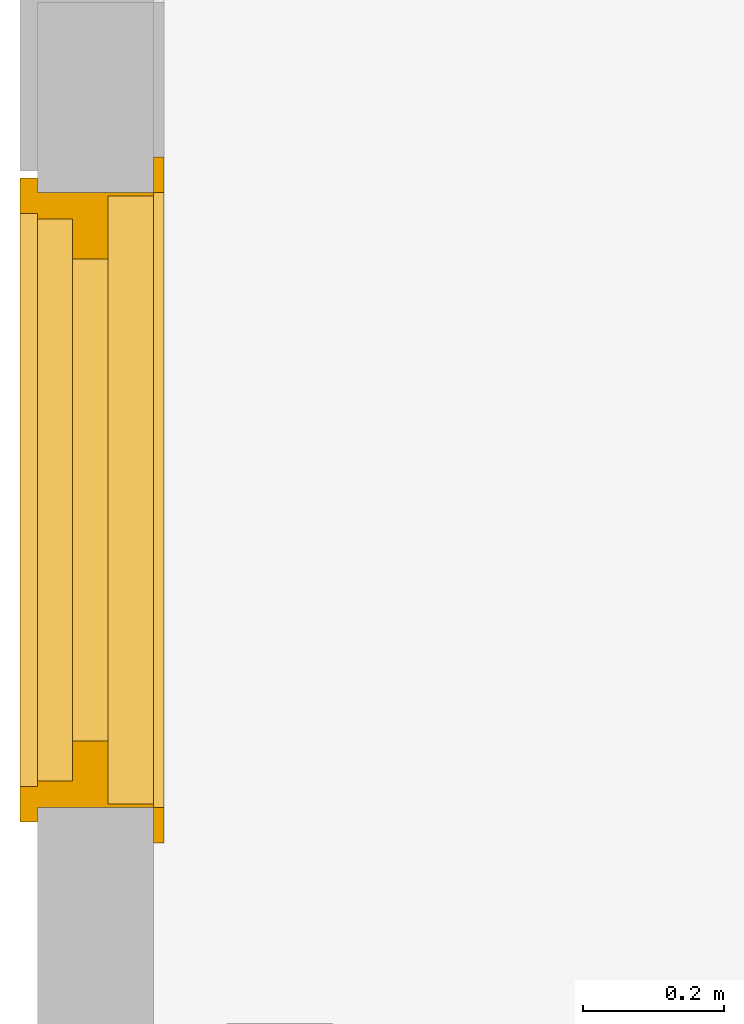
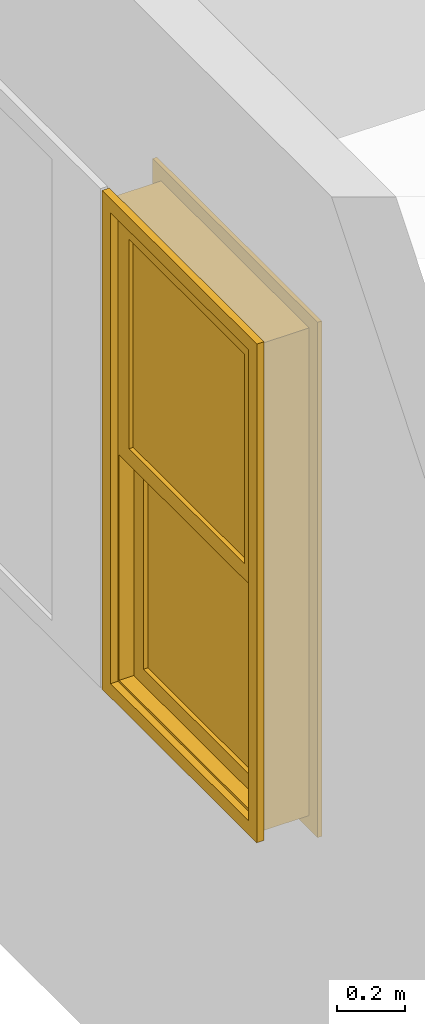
# One storey, part 29 of 77: 1 window.
"""IFC2X3 building model written with IfcOpenShell, lengths in inches."""

from ifc_helpers import new_model, entity, si_unit, converted_unit, derived_unit, money_unit, direction, frame, origin_with_axes, place, context, subcontext, project, spatial, open_shell, faceted_brep, surface_model, source, transform, mapped, type_object, element, save


model = new_model("IFC2X3")

# Units and contexts
model_context = context("Model", 3, precision=0.000393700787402, world=origin_with_axes(), true_north=direction((0.0, 1.0)))
body_context = subcontext(model_context, "Body", "Model", "MODEL_VIEW")
ifc_project = project(units=[converted_unit("LENGTHUNIT", "INCH", entity("IfcPositiveLengthMeasure", 0.0254), si_unit("LENGTHUNIT", "METRE"), dimensions=[1, 0, 0, 0, 0, 0, 0]), converted_unit("AREAUNIT", "SQUARE_FOOT", entity("IfcPositiveLengthMeasure", 0.09290304), si_unit("AREAUNIT", "SQUARE_METRE"), dimensions=[2, 0, 0, 0, 0, 0, 0]), si_unit("PLANEANGLEUNIT", "RADIAN"), si_unit("SOLIDANGLEUNIT", "STERADIAN"), money_unit("USD"), converted_unit("TIMEUNIT", "Year", entity("IfcTimeMeasure", 31556926.0), si_unit("TIMEUNIT", "SECOND"), dimensions=[0, 0, 1, 0, 0, 0, 0]), si_unit("MASSUNIT", "GRAM", prefix="KILO"), si_unit("THERMODYNAMICTEMPERATUREUNIT", "DEGREE_CELSIUS"), si_unit("LUMINOUSINTENSITYUNIT", "LUMEN"), si_unit("ENERGYUNIT", "JOULE", prefix="MEGA"), derived_unit("THERMALCONDUCTANCEUNIT", [(si_unit("POWERUNIT", "WATT"), 1), (si_unit("LENGTHUNIT", "METRE"), -1), (si_unit("THERMODYNAMICTEMPERATUREUNIT", "KELVIN"), -1)]), derived_unit("SPECIFICHEATCAPACITYUNIT", [(si_unit("ENERGYUNIT", "JOULE"), 1), (si_unit("MASSUNIT", "GRAM", prefix="KILO"), -1), (si_unit("THERMODYNAMICTEMPERATUREUNIT", "KELVIN"), -1)]), derived_unit("MASSDENSITYUNIT", [(si_unit("MASSUNIT", "GRAM", prefix="KILO"), 1), (si_unit("VOLUMEUNIT", "CUBIC_METRE"), -1)])], contexts=[model_context])

# Site, building, storey
site_placement = place(None, origin_with_axes())
site = spatial("IfcSite", under=ifc_project, at=site_placement, Name="Site", CompositionType="ELEMENT")
building_placement = place(site_placement, origin_with_axes())
building = spatial("IfcBuilding", under=site, at=building_placement, Name="Building", CompositionType="ELEMENT")
storey_placement = place(building_placement, frame((0.0, 0.0, 127.952755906), z_axis=(0.0, 0.0, 1.0), x_axis=(1.0, 0.0, 0.0)))
storey = spatial("IfcBuildingStorey", under=building, at=storey_placement, Name="Second Floor", CompositionType="ELEMENT", Elevation=127.953)

# Window
window_style = type_object("IfcWindowStyle", Name="Double-Hung Window 25", ConstructionType="NOTDEFINED", OperationType="DOUBLE_PANEL_HORIZONTAL", ParameterTakesPrecedence=False, Sizeable=False)
shared_shape = source(origin_with_axes(), body_context, "Body", "SurfaceModel", [
    faceted_brep([(-17.2244094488, 0.0, 0.0), (-17.2244094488, 2.56299212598, 0.0), (17.2244094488, 2.56299212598, 0.0), (17.2244094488, 0.0, 0.0), (-17.2244094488, 0.0, 69.2913385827), (-17.2244094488, 2.56299212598, 69.2913385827), (17.2244094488, 2.56299212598, 69.2913385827), (-17.0275590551, 2.56299212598, 0.196850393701), (17.0275590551, 2.56299212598, 0.196850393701), (17.0275590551, 2.56299212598, 69.094488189), (-17.0275590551, 2.56299212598, 69.094488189), (17.2244094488, 0.0, 69.2913385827), (-17.0275590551, 0.0, 0.196850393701), (-17.0275590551, 0.0, 69.094488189), (17.0275590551, 0.0, 69.094488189), (17.0275590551, 0.0, 0.196850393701)], [[[0, 1, 2, 3]], [[4, 5, 1, 0]], [[1, 5, 6, 2], [7, 8, 9, 10]], [[3, 2, 6, 11]], [[0, 3, 11, 4], [12, 13, 14, 15]], [[11, 6, 5, 4]], [[15, 8, 7, 12]], [[14, 9, 8, 15]], [[13, 10, 9, 14]], [[12, 7, 10, 13]]]),
    faceted_brep([(-19.1929133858, 3.15354330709, -1.96850393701), (-17.2244094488, 3.15354330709, 0.0), (-17.2244094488, 2.56299212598, 0.0), (-19.1929133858, 2.56299212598, -1.96850393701), (-19.1929133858, 3.15354330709, 71.2598425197), (-17.2244094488, 3.15354330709, 69.2913385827), (-17.2244094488, 2.56299212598, 69.2913385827), (-19.1929133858, 2.56299212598, 71.2598425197)], [[[0, 1, 2, 3]], [[0, 4, 5, 1]], [[1, 5, 6, 2]], [[3, 2, 6, 7]], [[4, 0, 3, 7]], [[5, 4, 7, 6]]]),
    faceted_brep([(19.1929133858, 3.15354330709, 71.2598425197), (17.2244094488, 3.15354330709, 69.2913385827), (17.2244094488, 2.56299212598, 69.2913385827), (19.1929133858, 2.56299212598, 71.2598425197), (19.1929133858, 3.15354330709, -1.96850393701), (17.2244094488, 3.15354330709, 0.0), (17.2244094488, 2.56299212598, 0.0), (19.1929133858, 2.56299212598, -1.96850393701)], [[[0, 1, 2, 3]], [[0, 4, 5, 1]], [[1, 5, 6, 2]], [[3, 2, 6, 7]], [[4, 0, 3, 7]], [[5, 4, 7, 6]]]),
    faceted_brep([(19.1929133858, 3.15354330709, -1.96850393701), (17.2244094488, 3.15354330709, 0.0), (17.2244094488, 2.56299212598, 0.0), (19.1929133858, 2.56299212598, -1.96850393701), (-19.1929133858, 3.15354330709, -1.96850393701), (-17.2244094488, 3.15354330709, 0.0), (-17.2244094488, 2.56299212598, 0.0), (-19.1929133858, 2.56299212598, -1.96850393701)], [[[0, 1, 2, 3]], [[0, 4, 5, 1]], [[1, 5, 6, 2]], [[3, 2, 6, 7]], [[4, 0, 3, 7]], [[5, 4, 7, 6]]]),
    faceted_brep([(-19.1929133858, 3.15354330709, 71.2598425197), (-17.2244094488, 3.15354330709, 69.2913385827), (-17.2244094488, 2.56299212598, 69.2913385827), (-19.1929133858, 2.56299212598, 71.2598425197), (19.1929133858, 3.15354330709, 71.2598425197), (17.2244094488, 3.15354330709, 69.2913385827), (17.2244094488, 2.56299212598, 69.2913385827), (19.1929133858, 2.56299212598, 71.2598425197)], [[[0, 1, 2, 3]], [[0, 4, 5, 1]], [[1, 5, 6, 2]], [[3, 2, 6, 7]], [[4, 0, 3, 7]], [[5, 4, 7, 6]]]),
    faceted_brep([(-18.0118110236, -4.92125984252, -0.787401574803), (-18.0118110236, -3.93700787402, -0.787401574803), (-16.0433070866, -3.93700787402, 1.1811023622), (-16.0433070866, -4.92125984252, 1.1811023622), (-18.0118110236, -4.92125984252, 70.0787401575), (-18.0118110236, -3.93700787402, 70.0787401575), (-16.0433070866, -3.93700787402, 68.1102362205), (-16.0433070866, -4.92125984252, 68.1102362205)], [[[0, 1, 2, 3]], [[4, 5, 1, 0]], [[1, 5, 6, 2]], [[3, 2, 6, 7]], [[0, 3, 7, 4]], [[7, 6, 5, 4]]]),
    faceted_brep([(18.0118110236, -4.92125984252, 70.0787401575), (18.0118110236, -3.93700787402, 70.0787401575), (16.0433070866, -3.93700787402, 68.1102362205), (16.0433070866, -4.92125984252, 68.1102362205), (18.0118110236, -4.92125984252, -0.787401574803), (18.0118110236, -3.93700787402, -0.787401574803), (16.0433070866, -3.93700787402, 1.1811023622), (16.0433070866, -4.92125984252, 1.1811023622)], [[[0, 1, 2, 3]], [[4, 5, 1, 0]], [[1, 5, 6, 2]], [[3, 2, 6, 7]], [[0, 3, 7, 4]], [[7, 6, 5, 4]]]),
    faceted_brep([(18.0118110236, -4.92125984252, -0.787401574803), (18.0118110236, -3.93700787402, -0.787401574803), (16.0433070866, -3.93700787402, 1.1811023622), (16.0433070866, -4.92125984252, 1.1811023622), (-18.0118110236, -4.92125984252, -0.787401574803), (-18.0118110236, -3.93700787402, -0.787401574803), (-16.0433070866, -3.93700787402, 1.1811023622), (-16.0433070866, -4.92125984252, 1.1811023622)], [[[0, 1, 2, 3]], [[4, 5, 1, 0]], [[1, 5, 6, 2]], [[3, 2, 6, 7]], [[0, 3, 7, 4]], [[7, 6, 5, 4]]]),
    faceted_brep([(-18.0118110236, -4.92125984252, 70.0787401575), (-18.0118110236, -3.93700787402, 70.0787401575), (-16.0433070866, -3.93700787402, 68.1102362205), (-16.0433070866, -4.92125984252, 68.1102362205), (18.0118110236, -4.92125984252, 70.0787401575), (18.0118110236, -3.93700787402, 70.0787401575), (16.0433070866, -3.93700787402, 68.1102362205), (16.0433070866, -4.92125984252, 68.1102362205)], [[[0, 1, 2, 3]], [[4, 5, 1, 0]], [[1, 5, 6, 2]], [[3, 2, 6, 7]], [[0, 3, 7, 4]], [[7, 6, 5, 4]]]),
    faceted_brep([(-15.7283464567, -3.93700787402, 67.7952755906), (-15.7283464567, 0.0, 67.7952755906), (-17.2244094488, 0.0, 67.7952755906), (-17.2244094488, -3.93700787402, 67.7952755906), (-15.7283464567, -3.93700787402, 1.49606299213), (-15.7283464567, 0.0, 1.49606299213), (-17.2244094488, 0.0, 1.49606299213), (-17.2244094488, -3.93700787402, 1.49606299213)], [[[0, 1, 2, 3]], [[4, 5, 1, 0]], [[1, 5, 6, 2]], [[3, 2, 6, 7]], [[0, 3, 7, 4]], [[7, 6, 5, 4]]]),
    faceted_brep([(15.7283464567, -3.93700787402, 1.49606299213), (15.7283464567, 0.0, 1.49606299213), (17.2244094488, 0.0, 1.49606299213), (17.2244094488, -3.93700787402, 1.49606299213), (15.7283464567, -3.93700787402, 67.7952755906), (15.7283464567, 0.0, 67.7952755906), (17.2244094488, 0.0, 67.7952755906), (17.2244094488, -3.93700787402, 67.7952755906)], [[[0, 1, 2, 3]], [[4, 5, 1, 0]], [[1, 5, 6, 2]], [[3, 2, 6, 7]], [[0, 3, 7, 4]], [[7, 6, 5, 4]]]),
    faceted_brep([(-15.7283464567, -3.93700787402, 1.49606299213), (-15.7283464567, 0.0, 1.49606299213), (-17.2244094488, 0.0, 1.49606299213), (-17.2244094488, -3.93700787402, 1.49606299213), (15.7283464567, -3.93700787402, 1.49606299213), (15.7283464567, 0.0, 1.49606299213), (17.2244094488, 0.0, 1.49606299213), (17.2244094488, 0.0, 0.0), (-17.2244094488, 0.0, 0.0), (-17.2244094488, -3.93700787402, 0.0), (17.2244094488, -3.93700787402, 0.0), (17.2244094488, -3.93700787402, 1.49606299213)], [[[0, 1, 2, 3]], [[4, 5, 1, 0]], [[1, 5, 6, 7, 8, 2]], [[3, 2, 8, 9]], [[0, 3, 9, 10, 11, 4]], [[11, 6, 5, 4]], [[10, 7, 6, 11]], [[9, 8, 7, 10]]]),
    faceted_brep([(15.7283464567, -3.93700787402, 67.7952755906), (15.7283464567, 0.0, 67.7952755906), (17.2244094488, 0.0, 67.7952755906), (17.2244094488, -3.93700787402, 67.7952755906), (-15.7283464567, -3.93700787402, 67.7952755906), (-15.7283464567, 0.0, 67.7952755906), (-17.2244094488, 0.0, 67.7952755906), (-17.2244094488, 0.0, 69.2913385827), (17.2244094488, 0.0, 69.2913385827), (17.2244094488, -3.93700787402, 69.2913385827), (-17.2244094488, -3.93700787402, 69.2913385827), (-17.2244094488, -3.93700787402, 67.7952755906)], [[[0, 1, 2, 3]], [[4, 5, 1, 0]], [[1, 5, 6, 7, 8, 2]], [[3, 2, 8, 9]], [[0, 3, 9, 10, 11, 4]], [[11, 6, 5, 4]], [[10, 7, 6, 11]], [[9, 8, 7, 10]]]),
    faceted_brep([(-13.4842519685, -1.96850393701, 33.5236220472), (-13.4842519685, 0.0, 33.5236220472), (-15.7283464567, 0.0, 33.5236220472), (-15.7283464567, -1.96850393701, 33.5236220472), (-13.4842519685, -1.96850393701, 3.74015748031), (-13.4842519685, 0.0, 3.74015748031), (-15.7283464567, 0.0, 3.74015748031), (-15.7283464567, -1.96850393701, 3.74015748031)], [[[0, 1, 2, 3]], [[4, 5, 1, 0]], [[1, 5, 6, 2]], [[3, 2, 6, 7]], [[0, 3, 7, 4]], [[7, 6, 5, 4]]]),
    faceted_brep([(13.4842519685, -1.96850393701, 3.74015748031), (13.4842519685, 0.0, 3.74015748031), (15.7283464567, 0.0, 3.74015748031), (15.7283464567, -1.96850393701, 3.74015748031), (13.4842519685, -1.96850393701, 33.5236220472), (13.4842519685, 0.0, 33.5236220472), (15.7283464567, 0.0, 33.5236220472), (15.7283464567, -1.96850393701, 33.5236220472)], [[[0, 1, 2, 3]], [[4, 5, 1, 0]], [[1, 5, 6, 2]], [[3, 2, 6, 7]], [[0, 3, 7, 4]], [[7, 6, 5, 4]]]),
    faceted_brep([(15.7283464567, -1.96850393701, 1.49606299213), (15.7283464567, 0.0, 1.49606299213), (15.7283464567, 0.0, 3.74015748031), (15.7283464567, -1.96850393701, 3.74015748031), (-15.7283464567, -1.96850393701, 1.49606299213), (-15.7283464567, 0.0, 1.49606299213), (-15.7283464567, 0.0, 3.74015748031), (-13.4842519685, 0.0, 3.74015748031), (13.4842519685, 0.0, 3.74015748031), (13.4842519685, -1.96850393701, 3.74015748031), (-13.4842519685, -1.96850393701, 3.74015748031), (-15.7283464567, -1.96850393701, 3.74015748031)], [[[0, 1, 2, 3]], [[4, 5, 1, 0]], [[1, 5, 6, 7, 8, 2]], [[3, 2, 8, 9]], [[0, 3, 9, 10, 11, 4]], [[11, 6, 5, 4]], [[10, 7, 6, 11]], [[9, 8, 7, 10]]]),
    faceted_brep([(-15.7283464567, -1.96850393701, 35.7677165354), (-15.7283464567, 0.0, 35.7677165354), (-15.7283464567, 0.0, 33.5236220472), (-15.7283464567, -1.96850393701, 33.5236220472), (15.7283464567, -1.96850393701, 35.7677165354), (15.7283464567, 0.0, 35.7677165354), (15.7283464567, 0.0, 33.5236220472), (13.4842519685, 0.0, 33.5236220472), (-13.4842519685, 0.0, 33.5236220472), (-13.4842519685, -1.96850393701, 33.5236220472), (13.4842519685, -1.96850393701, 33.5236220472), (15.7283464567, -1.96850393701, 33.5236220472)], [[[0, 1, 2, 3]], [[4, 5, 1, 0]], [[1, 5, 6, 7, 8, 2]], [[3, 2, 8, 9]], [[0, 3, 9, 10, 11, 4]], [[11, 6, 5, 4]], [[10, 7, 6, 11]], [[9, 8, 7, 10]]]),
    surface_model("IfcShellBasedSurfaceModel", [(-13.4842519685, -1.37795275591, 3.74015748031), (13.4842519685, -1.37795275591, 3.74015748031), (13.4842519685, -1.37795275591, 33.5236220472), (-13.4842519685, -1.37795275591, 33.5236220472)], [open_shell([[[0, 1, 2, 3]]])]),
    surface_model("IfcShellBasedSurfaceModel", [(-13.4842519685, -0.590551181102, 3.74015748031), (-13.4842519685, -0.590551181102, 33.5236220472), (13.4842519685, -0.590551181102, 33.5236220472), (13.4842519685, -0.590551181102, 3.74015748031)], [open_shell([[[0, 1, 2, 3]]])]),
    faceted_brep([(-13.4842519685, -3.93700787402, 65.5511811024), (-13.4842519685, -1.96850393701, 65.5511811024), (-15.7283464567, -1.96850393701, 65.5511811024), (-15.7283464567, -3.93700787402, 65.5511811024), (-13.4842519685, -3.93700787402, 35.7677165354), (-13.4842519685, -1.96850393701, 35.7677165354), (-15.7283464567, -1.96850393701, 35.7677165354), (-15.7283464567, -3.93700787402, 35.7677165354)], [[[0, 1, 2, 3]], [[4, 5, 1, 0]], [[1, 5, 6, 2]], [[3, 2, 6, 7]], [[0, 3, 7, 4]], [[7, 6, 5, 4]]]),
    faceted_brep([(13.4842519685, -3.93700787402, 35.7677165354), (13.4842519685, -1.96850393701, 35.7677165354), (15.7283464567, -1.96850393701, 35.7677165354), (15.7283464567, -3.93700787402, 35.7677165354), (13.4842519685, -3.93700787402, 65.5511811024), (13.4842519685, -1.96850393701, 65.5511811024), (15.7283464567, -1.96850393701, 65.5511811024), (15.7283464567, -3.93700787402, 65.5511811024)], [[[0, 1, 2, 3]], [[4, 5, 1, 0]], [[1, 5, 6, 2]], [[3, 2, 6, 7]], [[0, 3, 7, 4]], [[7, 6, 5, 4]]]),
    faceted_brep([(15.7283464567, -3.93700787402, 33.5236220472), (15.7283464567, -1.96850393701, 33.5236220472), (15.7283464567, -1.96850393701, 35.7677165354), (15.7283464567, -3.93700787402, 35.7677165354), (-15.7283464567, -3.93700787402, 33.5236220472), (-15.7283464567, -1.96850393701, 33.5236220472), (-15.7283464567, -1.96850393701, 35.7677165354), (-13.4842519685, -1.96850393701, 35.7677165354), (13.4842519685, -1.96850393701, 35.7677165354), (13.4842519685, -3.93700787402, 35.7677165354), (-13.4842519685, -3.93700787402, 35.7677165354), (-15.7283464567, -3.93700787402, 35.7677165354)], [[[0, 1, 2, 3]], [[4, 5, 1, 0]], [[1, 5, 6, 7, 8, 2]], [[3, 2, 8, 9]], [[0, 3, 9, 10, 11, 4]], [[11, 6, 5, 4]], [[10, 7, 6, 11]], [[9, 8, 7, 10]]]),
    faceted_brep([(-15.7283464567, -3.93700787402, 67.7952755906), (-15.7283464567, -1.96850393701, 67.7952755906), (-15.7283464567, -1.96850393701, 65.5511811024), (-15.7283464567, -3.93700787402, 65.5511811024), (15.7283464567, -3.93700787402, 67.7952755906), (15.7283464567, -1.96850393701, 67.7952755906), (15.7283464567, -1.96850393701, 65.5511811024), (13.4842519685, -1.96850393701, 65.5511811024), (-13.4842519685, -1.96850393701, 65.5511811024), (-13.4842519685, -3.93700787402, 65.5511811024), (13.4842519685, -3.93700787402, 65.5511811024), (15.7283464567, -3.93700787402, 65.5511811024)], [[[0, 1, 2, 3]], [[4, 5, 1, 0]], [[1, 5, 6, 7, 8, 2]], [[3, 2, 8, 9]], [[0, 3, 9, 10, 11, 4]], [[11, 6, 5, 4]], [[10, 7, 6, 11]], [[9, 8, 7, 10]]]),
    surface_model("IfcShellBasedSurfaceModel", [(-13.4842519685, -3.34645669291, 35.7677165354), (13.4842519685, -3.34645669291, 35.7677165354), (13.4842519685, -3.34645669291, 65.5511811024), (-13.4842519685, -3.34645669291, 65.5511811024)], [open_shell([[[0, 1, 2, 3]]])]),
    surface_model("IfcShellBasedSurfaceModel", [(-13.4842519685, -2.55905511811, 35.7677165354), (-13.4842519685, -2.55905511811, 65.5511811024), (13.4842519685, -2.55905511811, 65.5511811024), (13.4842519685, -2.55905511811, 35.7677165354)], [open_shell([[[0, 1, 2, 3]]])]),
])
window_placement = place(storey_placement, frame((226.637942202, 459.938833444, 25.7874015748), z_axis=(0.0, 0.0, 1.0), x_axis=(0.0, -1.0, 0.0)))
element("IfcWindow", 1, at=window_placement, inside=storey, type_object=window_style, Name="W-30", OverallHeight=69.2913, OverallWidth=34.4488, context=body_context, shape_type="MappedRepresentation", body=[
    mapped(shared_shape, transform((17.2244094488, -2.56299212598, 0.0))),
])

save(model, "model.ifc")
